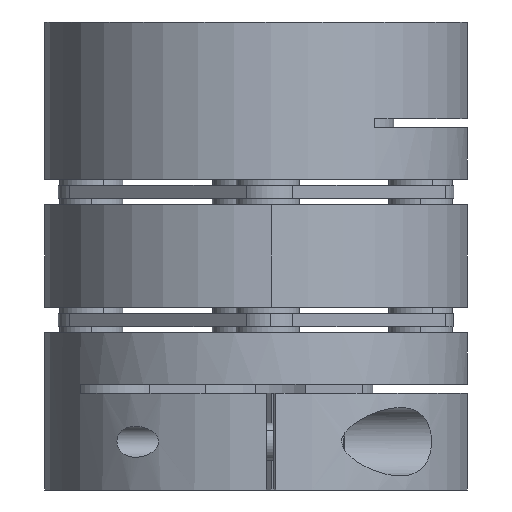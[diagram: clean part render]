
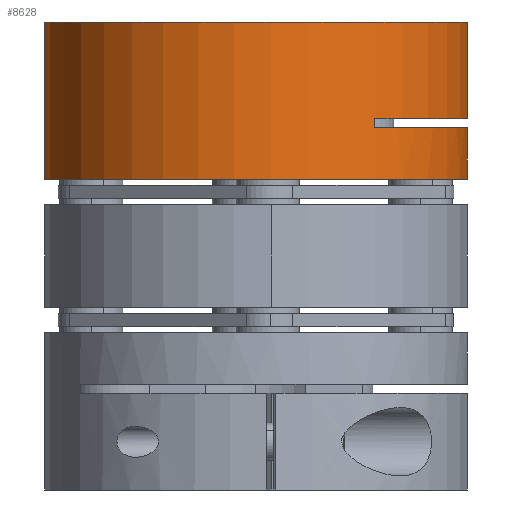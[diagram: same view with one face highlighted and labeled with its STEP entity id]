
A CAD part, front view. The second image highlights one B-rep face of the part: STEP entity #8628.
In plain terms, the highlighted cylindrical face has radius 34 mm (diameter 68 mm), a partial arc.
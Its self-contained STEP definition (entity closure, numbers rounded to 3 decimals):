
#99 = CARTESIAN_POINT ( 'NONE',  ( -7.594, 86.967, 91.227 ) ) ;
#479 = LINE ( 'NONE', #5032, #4651 ) ;
#880 = EDGE_CURVE ( 'NONE', #4430, #12695, #14297, .T. ) ;
#1373 = EDGE_CURVE ( 'NONE', #18721, #6990, #15479, .T. ) ;
#1668 = DIRECTION ( 'NONE',  ( -0.997, -0.072, 0. ) ) ;
#1815 = CIRCLE ( 'NONE', #5531, 34. ) ;
#2401 = CARTESIAN_POINT ( 'NONE',  ( 26.318, 89.412, 91.227 ) ) ;
#2593 = FACE_OUTER_BOUND ( 'NONE', #18817, .T. ) ;
#3079 = CARTESIAN_POINT ( 'NONE',  ( 26.318, 89.412, 83.027 ) ) ;
#3981 = DIRECTION ( 'NONE',  ( 0., 0., -1. ) ) ;
#4075 = LINE ( 'NONE', #9560, #7743 ) ;
#4266 = DIRECTION ( 'NONE',  ( 0., 0., 1. ) ) ;
#4279 = VERTEX_POINT ( 'NONE', #6434 ) ;
#4430 = VERTEX_POINT ( 'NONE', #2401 ) ;
#4651 = VECTOR ( 'NONE', #14379, 1000. ) ;
#4714 = DIRECTION ( 'NONE',  ( 0., 0., -1. ) ) ;
#4818 = AXIS2_PLACEMENT_3D ( 'NONE', #13603, #4266, #15194 ) ;
#5009 = CIRCLE ( 'NONE', #14817, 34. ) ;
#5032 = CARTESIAN_POINT ( 'NONE',  ( 26.318, 89.412, 108.227 ) ) ;
#5531 = AXIS2_PLACEMENT_3D ( 'NONE', #99, #11077, #1668 ) ;
#5929 = ORIENTED_EDGE ( 'NONE', *, *, #10588, .T. ) ;
#6434 = CARTESIAN_POINT ( 'NONE',  ( 11.468, 58.812, 91.227 ) ) ;
#6990 = VERTEX_POINT ( 'NONE', #11819 ) ;
#7194 = EDGE_CURVE ( 'NONE', #18167, #12695, #5009, .T. ) ;
#7315 = EDGE_CURVE ( 'NONE', #8896, #18167, #4075, .T. ) ;
#7645 = CARTESIAN_POINT ( 'NONE',  ( 11.468, 58.812, 92.727 ) ) ;
#7718 = DIRECTION ( 'NONE',  ( 0., 0., 1. ) ) ;
#7743 = VECTOR ( 'NONE', #12667, 1000. ) ;
#7831 = ORIENTED_EDGE ( 'NONE', *, *, #16893, .F. ) ;
#7940 = DIRECTION ( 'NONE',  ( -0.997, -0.072, 0. ) ) ;
#8628 = ADVANCED_FACE ( 'NONE', ( #2593 ), #12617, .T. ) ;
#8896 = VERTEX_POINT ( 'NONE', #13310 ) ;
#9211 = DIRECTION ( 'NONE',  ( 0., 0., -1. ) ) ;
#9440 = AXIS2_PLACEMENT_3D ( 'NONE', #13325, #3981, #14892 ) ;
#9550 = ORIENTED_EDGE ( 'NONE', *, *, #7315, .T. ) ;
#9560 = CARTESIAN_POINT ( 'NONE',  ( -41.506, 84.521, 108.227 ) ) ;
#9929 = EDGE_CURVE ( 'NONE', #6990, #4279, #13613, .T. ) ;
#10081 = CARTESIAN_POINT ( 'NONE',  ( -41.506, 84.521, 83.027 ) ) ;
#10198 = VECTOR ( 'NONE', #18808, 1000. ) ;
#10588 = EDGE_CURVE ( 'NONE', #4430, #4279, #1815, .T. ) ;
#11077 = DIRECTION ( 'NONE',  ( 0., 0., -1. ) ) ;
#11819 = CARTESIAN_POINT ( 'NONE',  ( 11.468, 58.812, 92.727 ) ) ;
#12266 = VERTEX_POINT ( 'NONE', #12877 ) ;
#12515 = EDGE_CURVE ( 'NONE', #8896, #12266, #16789, .T. ) ;
#12548 = ORIENTED_EDGE ( 'NONE', *, *, #1373, .F. ) ;
#12617 = CYLINDRICAL_SURFACE ( 'NONE', #19269, 34. ) ;
#12667 = DIRECTION ( 'NONE',  ( 0., 0., -1. ) ) ;
#12695 = VERTEX_POINT ( 'NONE', #3079 ) ;
#12877 = CARTESIAN_POINT ( 'NONE',  ( 26.318, 89.412, 108.227 ) ) ;
#13132 = VECTOR ( 'NONE', #9211, 1000. ) ;
#13310 = CARTESIAN_POINT ( 'NONE',  ( -41.506, 84.521, 108.227 ) ) ;
#13325 = CARTESIAN_POINT ( 'NONE',  ( -7.594, 86.967, 92.727 ) ) ;
#13603 = CARTESIAN_POINT ( 'NONE',  ( -7.594, 86.967, 108.227 ) ) ;
#13613 = LINE ( 'NONE', #7645, #13132 ) ;
#14297 = LINE ( 'NONE', #18337, #10198 ) ;
#14379 = DIRECTION ( 'NONE',  ( 0., 0., -1. ) ) ;
#14817 = AXIS2_PLACEMENT_3D ( 'NONE', #17025, #7718, #18575 ) ;
#14892 = DIRECTION ( 'NONE',  ( -0.997, -0.072, 0. ) ) ;
#15194 = DIRECTION ( 'NONE',  ( 0.997, 0.072, 0. ) ) ;
#15412 = ORIENTED_EDGE ( 'NONE', *, *, #12515, .F. ) ;
#15479 = CIRCLE ( 'NONE', #9440, 34. ) ;
#16223 = CARTESIAN_POINT ( 'NONE',  ( 26.318, 89.412, 92.727 ) ) ;
#16789 = CIRCLE ( 'NONE', #4818, 34. ) ;
#16893 = EDGE_CURVE ( 'NONE', #12266, #18721, #479, .T. ) ;
#16944 = ORIENTED_EDGE ( 'NONE', *, *, #880, .F. ) ;
#17025 = CARTESIAN_POINT ( 'NONE',  ( -7.594, 86.967, 83.027 ) ) ;
#17832 = ORIENTED_EDGE ( 'NONE', *, *, #9929, .F. ) ;
#18167 = VERTEX_POINT ( 'NONE', #10081 ) ;
#18337 = CARTESIAN_POINT ( 'NONE',  ( 26.318, 89.412, 108.227 ) ) ;
#18575 = DIRECTION ( 'NONE',  ( 0.997, 0.072, 0. ) ) ;
#18721 = VERTEX_POINT ( 'NONE', #16223 ) ;
#18744 = CARTESIAN_POINT ( 'NONE',  ( -7.594, 86.967, 108.227 ) ) ;
#18755 = ORIENTED_EDGE ( 'NONE', *, *, #7194, .T. ) ;
#18808 = DIRECTION ( 'NONE',  ( 0., 0., -1. ) ) ;
#18817 = EDGE_LOOP ( 'NONE', ( #7831, #15412, #9550, #18755, #16944, #5929, #17832, #12548 ) ) ;
#19269 = AXIS2_PLACEMENT_3D ( 'NONE', #18744, #4714, #7940 ) ;
